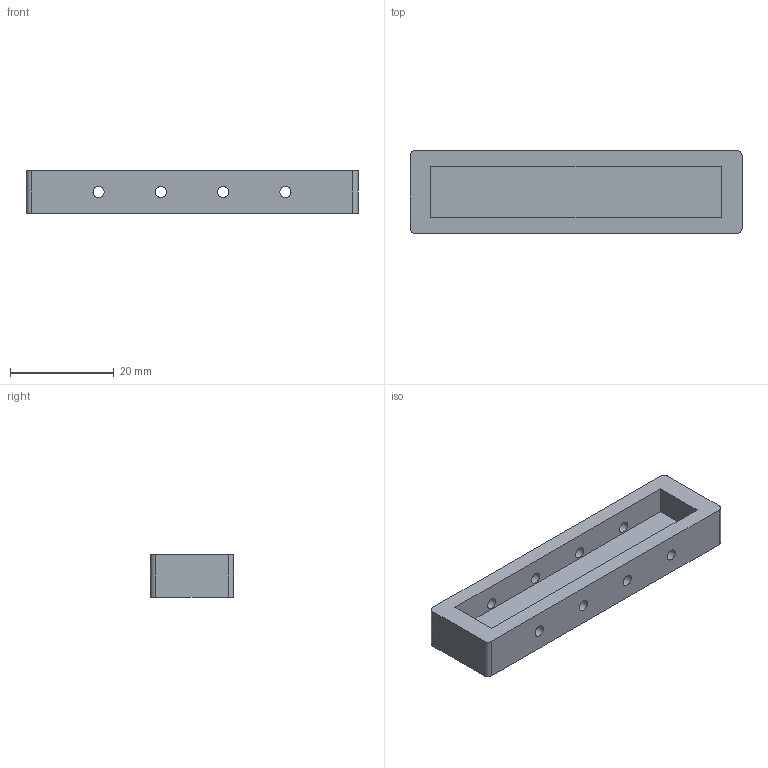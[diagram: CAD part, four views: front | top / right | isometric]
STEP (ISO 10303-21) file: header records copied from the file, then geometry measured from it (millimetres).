
FILE_DESCRIPTION(('Open CASCADE Model'),'2;1');
FILE_NAME('Open CASCADE Shape Model','2026-08-15T08:52:40',('Author'),( 'Open CASCADE'),'Open CASCADE STEP processor 7.9','Open CASCADE 7.9' ,'Unknown');
FILE_SCHEMA(('AUTOMOTIVE_DESIGN { 1 0 10303 214 1 1 1 1 }'));
Length unit declared in the file: millimetre
Products named in the file (1): Open CASCADE STEP translator 7.9 9
Bounding box: 64 x 16 x 8.2 mm (x, y, z)
Volume: 5274.5 mm3; surface area: 4162.1 mm2
Topology: 1 solids, 1 shells, 23 faces, 60 edges, 40 vertices
Faces by surface type: cylinder 12, plane 11
Full cylindrical faces by diameter (mm): 2.2 x8
Entity records: 1564 total; most frequent: CARTESIAN_POINT 292, DIRECTION 244, LINE 132, VECTOR 132, ORIENTED_EDGE 120, PCURVE 120, DEFINITIONAL_REPRESENTATION 120, EDGE_CURVE 60
